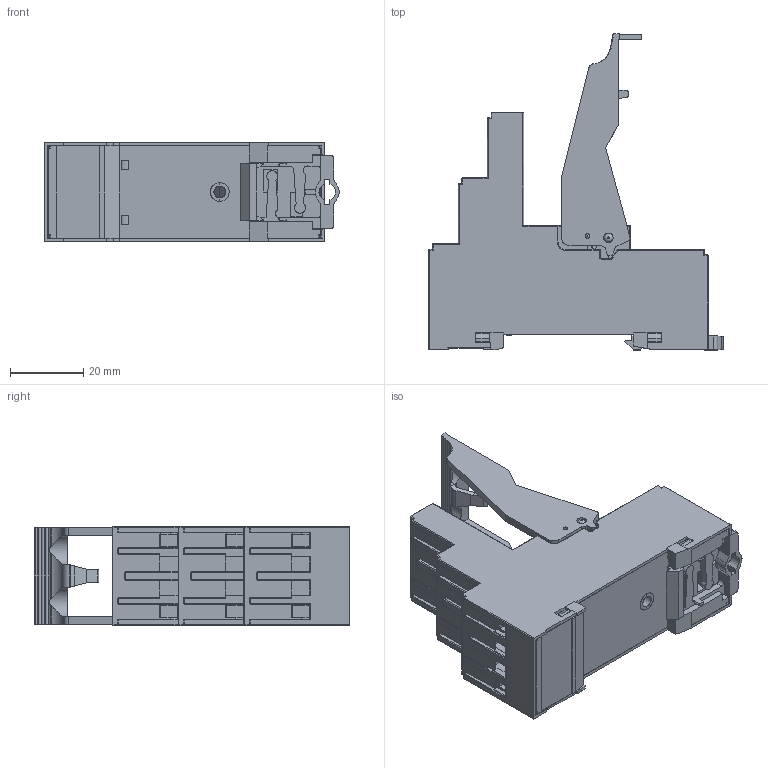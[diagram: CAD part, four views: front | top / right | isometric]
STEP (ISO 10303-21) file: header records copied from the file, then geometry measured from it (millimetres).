
FILE_DESCRIPTION(('STEP AP214'),'2;1');
FILE_NAME('94923_with_094913.stp','2011-12-13T11:48:28',(''),(''),'2007.1.106','THINKDESIGN','');
FILE_SCHEMA(('AUTOMOTIVE_DESIGN'));
Products named in the file (1): None
Bounding box: 80.33 x 86.24 x 27 mm (x, y, z)
Surface area: 28512.9 mm2 (no closed solid volume)
Topology: 0 solids, 0 shells, 1104 faces, 6141 edges, 6126 vertices
Faces by surface type: plane 697, cylinder 306, bspline 101
Full cylindrical faces by diameter (mm): 1.2 x4, 1.3 x2, 2.5 x2, 2.6 x2, 3.2 x1, 3.6 x1, 4.7 x8, 5.3 x14
Entity records: 67592 total; most frequent: CARTESIAN_POINT 23502, DIRECTION 7679, COMPOSITE_CURVE_SEGMENT 6020, TRIMMED_CURVE 5030, VECTOR 4475, LINE 4475, AXIS2_PLACEMENT_3D 1602, STYLED_ITEM 1151
